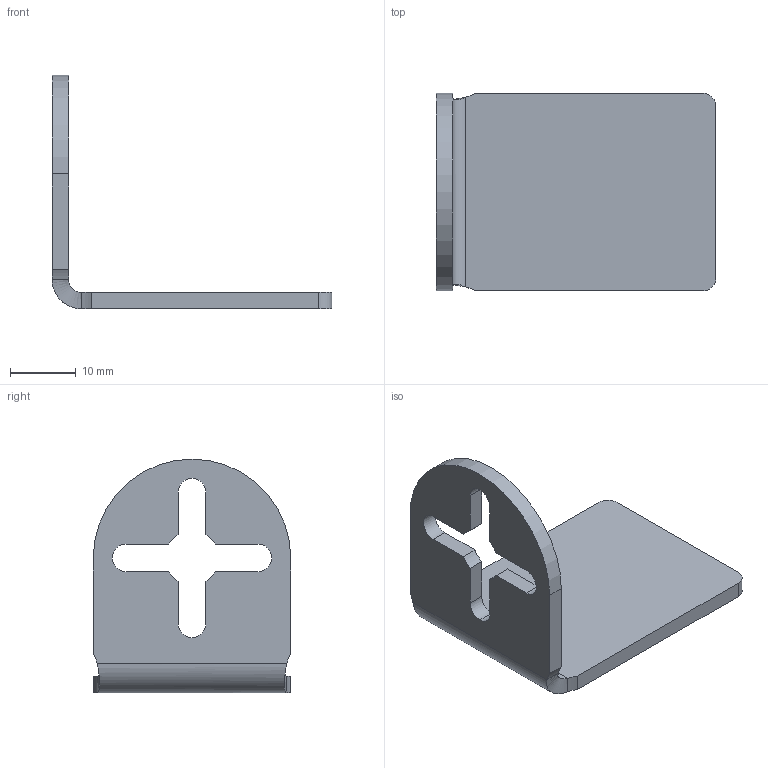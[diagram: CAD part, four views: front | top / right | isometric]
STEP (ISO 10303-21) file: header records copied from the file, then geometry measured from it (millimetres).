
FILE_DESCRIPTION (( 'STEP AP203' ), '1' );
FILE_NAME ('Wiberger-gn479-1-30.step', '2012-09-19T06:42:57', ( 'Magnus' ), ( 'Wiberger' ), 'SwSTEP 2.0', 'SolidWorks 2011', '' );
FILE_SCHEMA (( 'CONFIG_CONTROL_DESIGN' ));
Length unit declared in the file: millimetre
Products named in the file (1): Wiberger-gn479-1-30
Bounding box: 42.5 x 30 x 35.5 mm (x, y, z)
Volume: 4828.5 mm3; surface area: 4564.4 mm2
Topology: 1 solids, 1 shells, 37 faces, 97 edges, 62 vertices
Faces by surface type: cylinder 18, plane 17, bspline 2
Entity records: 1350 total; most frequent: CARTESIAN_POINT 349, ORIENTED_EDGE 194, DIRECTION 193, EDGE_CURVE 97, AXIS2_PLACEMENT_3D 68, VERTEX_POINT 62, VECTOR 57, LINE 57
